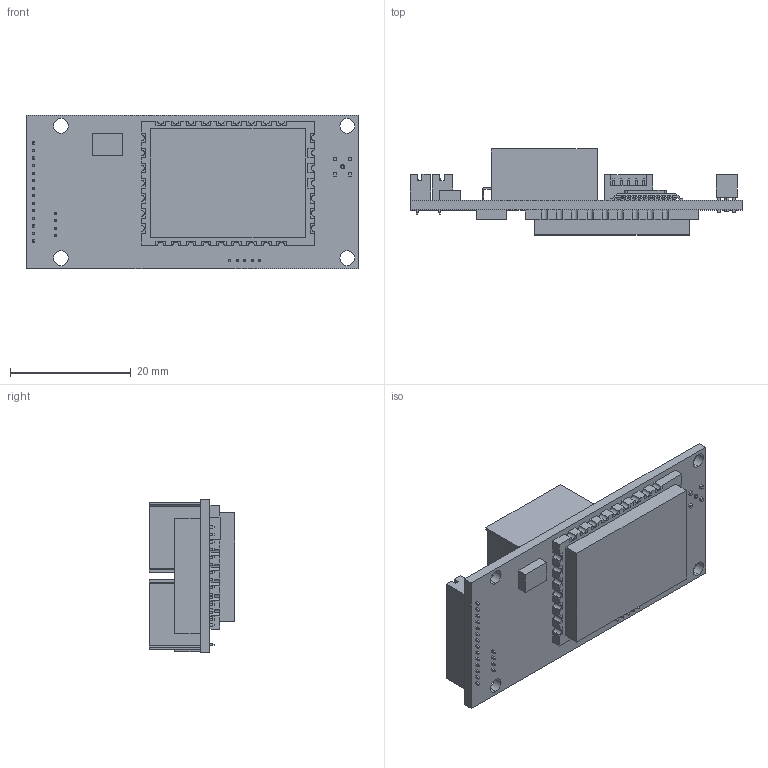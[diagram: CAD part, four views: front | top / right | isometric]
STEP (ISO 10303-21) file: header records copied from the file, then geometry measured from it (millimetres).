
FILE_DESCRIPTION (( 'STEP AP214' ), '1' );
FILE_NAME ('NSL EyeStar-S3 Simplex v6.STEP', '2019-06-18T20:22:03', ( '' ), ( '' ), 'SwSTEP 2.0', 'SolidWorks 2014', '' );
FILE_SCHEMA (( 'AUTOMOTIVE_DESIGN' ));
Length unit declared in the file: inch
Products named in the file (2): NSL EyeStar-S3 Simplex v6
Bounding box: 55 x 14.22 x 25.5 mm (x, y, z)
Volume: 8176.6 mm3; surface area: 7983.5 mm2
Topology: 55 solids, 55 shells, 1390 faces, 3359 edges, 2144 vertices
Faces by surface type: plane 1311, cylinder 75, cone 4
Entity records: 43228 total; most frequent: CARTESIAN_POINT 7522, ORIENTED_EDGE 6714, DIRECTION 6085, EDGE_CURVE 3357, LINE 2993, VECTOR 2993, VERTEX_POINT 2143, AXIS2_PLACEMENT_3D 1546
